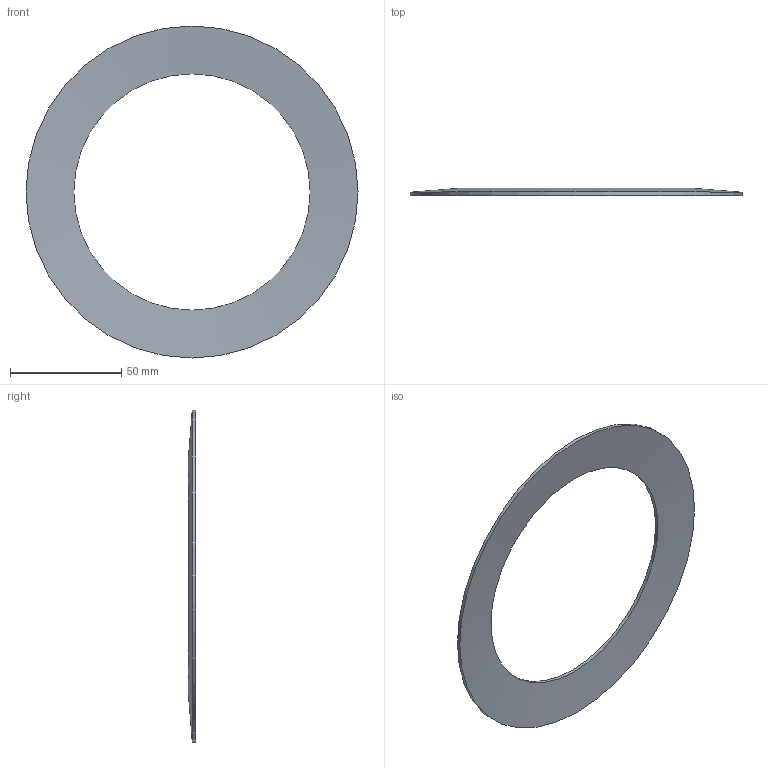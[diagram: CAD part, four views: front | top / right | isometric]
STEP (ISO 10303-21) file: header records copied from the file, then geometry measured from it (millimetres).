
FILE_DESCRIPTION(/* description */ ('450N'),/* implementation_level */ '2;1');
FILE_NAME(/* name */ 'ST.1490.1060.0150.step',/* time_stamp */ '2026-09-18T10:39:29+02:00',/* author */ ('impex-ready.pl'),/* organization */ ('ST.1490.1060.0150'),/* preprocessor_version */ 'ST-DEVELOPER v20.1',/* originating_system */ 'Autodesk Inventor 2026',/* authorisation */ 'Ugiecie 0,75 h0 = 1.28');
FILE_SCHEMA (('AUTOMOTIVE_DESIGN { 1 0 10303 214 3 1 1 }'));
Length unit declared in the file: millimetre
Products named in the file (1): ST.1490.1060.0150
Bounding box: 149 x 3.2 x 149 mm (x, y, z)
Volume: 12957.9 mm3; surface area: 18482.6 mm2
Topology: 1 solids, 1 shells, 4 faces, 8 edges, 4 vertices
Faces by surface type: cone 2, cylinder 2
Full cylindrical faces by diameter (mm): 106 x1, 149 x1
Entity records: 151 total; most frequent: DIRECTION 22, CARTESIAN_POINT 17, ORIENTED_EDGE 16, AXIS2_PLACEMENT_3D 9, EDGE_CURVE 8, FACE_OUTER_BOUND 4, EDGE_LOOP 4, LINE 4
